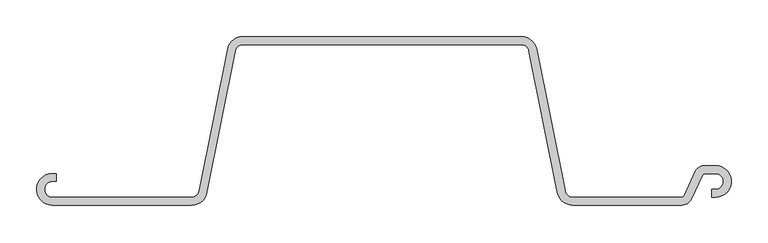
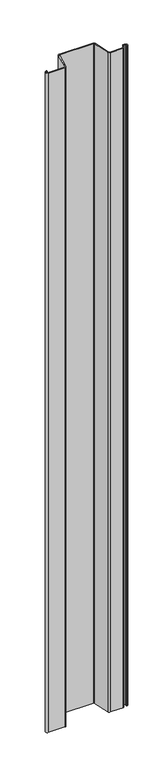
"""IFC4 building model written with IfcOpenShell, lengths in millimetres: proxy geometry, 鋼矢板10H型 : 鋼矢板10H型."""

from ifc_helpers import new_model, si_unit, point, frame, frame_2d, origin, place, context, project, spatial, polyline, circle_curve, trimmed, segment, composite_curve, outline, extrude, source, transform, mapped, element, save


def generic_models_5c6d3e61(model_context):
    return source(origin(), model_context, "Body", "SweptSolid", [
        extrude(outline(composite_curve([segment(trimmed(circle_curve(frame_2d((409.1972607, -101.1142857)), 13.8857143), [point((421.7819917, -106.9826421))], [point((409.1972607, -115.0))], False, "CARTESIAN"), True, "CONTINUOUS"), segment(polyline([(409.1972607, -115.0), (260.2008232, -115.0)]), True, "CONTINUOUS"), segment(trimmed(circle_curve(frame_2d((260.2008232, -93.4)), 21.6), [point((260.2008232, -115.0))], [point((239.0202806, -97.6361085))], False, "CARTESIAN"), True, "CONTINUOUS"), segment(polyline([(239.0202806, -97.6361085), (200.3894481, 95.5180543)]), True, "CONTINUOUS"), segment(trimmed(circle_curve(frame_2d((189.7991768, 93.4)), 10.8), [point((200.3894481, 95.5180543))], [point((189.7991768, 104.2))], True, "CARTESIAN"), True, "CONTINUOUS"), segment(polyline([(189.7991768, 104.2), (-189.7991768, 104.2)]), True, "CONTINUOUS"), segment(trimmed(circle_curve(frame_2d((-189.7991768, 93.4)), 10.8), [point((-189.7991768, 104.2))], [point((-200.3894481, 95.5180543))], True, "CARTESIAN"), True, "CONTINUOUS"), segment(polyline([(-200.3894481, 95.5180543), (-239.0202806, -97.6361085)]), True, "CONTINUOUS"), segment(trimmed(circle_curve(frame_2d((-260.2008232, -93.4)), 21.6), [point((-239.0202806, -97.6361085))], [point((-260.2008232, -115.0))], False, "CARTESIAN"), True, "CONTINUOUS"), segment(polyline([(-260.2008232, -115.0), (-450.0, -115.0)]), True, "CONTINUOUS"), segment(trimmed(circle_curve(frame_2d((-450.0, -93.4)), 21.6), [point((-450.0, -115.0))], [point((-450.0, -71.8))], False, "CARTESIAN"), True, "CONTINUOUS"), segment(polyline([(-450.0, -71.8), (-445.0, -71.8), (-445.0, -82.6), (-450.0, -82.6)]), True, "CONTINUOUS"), segment(trimmed(circle_curve(frame_2d((-450.0, -93.4)), 10.8), [point((-450.0, -82.6))], [point((-450.0, -104.2))], True, "CARTESIAN"), True, "CONTINUOUS"), segment(polyline([(-450.0, -104.2), (-260.2008232, -104.2)]), True, "CONTINUOUS"), segment(trimmed(circle_curve(frame_2d((-260.2008232, -93.4)), 10.8), [point((-260.2008232, -104.2))], [point((-249.6105519, -95.5180543))], True, "CARTESIAN"), True, "CONTINUOUS"), segment(polyline([(-249.6105519, -95.5180543), (-210.9797194, 97.6361085)]), True, "CONTINUOUS"), segment(trimmed(circle_curve(frame_2d((-189.7991768, 93.4)), 21.6), [point((-210.9797194, 97.6361085))], [point((-189.7991768, 115.0))], False, "CARTESIAN"), True, "CONTINUOUS"), segment(polyline([(-189.7991768, 115.0), (189.7991768, 115.0)]), True, "CONTINUOUS"), segment(trimmed(circle_curve(frame_2d((189.7991768, 93.4)), 21.6), [point((189.7991768, 115.0))], [point((210.9797194, 97.6361085))], False, "CARTESIAN"), True, "CONTINUOUS"), segment(polyline([(210.9797194, 97.6361085), (249.6105519, -95.5180543)]), True, "CONTINUOUS"), segment(trimmed(circle_curve(frame_2d((260.2008232, -93.4)), 10.8), [point((249.6105519, -95.5180543))], [point((260.2008232, -104.2))], True, "CARTESIAN"), True, "CONTINUOUS"), segment(polyline([(260.2008232, -104.2), (409.1972607, -104.2)]), True, "CONTINUOUS"), segment(trimmed(circle_curve(frame_2d((409.1972607, -101.1142857)), 3.0857143), [point((409.1972607, -104.2))], [point((411.9938676, -102.4183649))], True, "CARTESIAN"), True, "CONTINUOUS"), segment(polyline([(411.9938676, -102.4183649), (427.569013, -69.0173579)]), True, "CONTINUOUS"), segment(trimmed(circle_curve(frame_2d((440.153744, -74.8857143)), 13.8857143), [point((427.569013, -69.0173579))], [point((440.153744, -61.0))], False, "CARTESIAN"), True, "CONTINUOUS"), segment(polyline([(440.153744, -61.0), (455.0, -61.0)]), True, "CONTINUOUS"), segment(trimmed(circle_curve(frame_2d((455.0, -82.6)), 21.6), [point((455.0, -61.0))], [point((455.0, -104.2))], False, "CARTESIAN"), True, "CONTINUOUS"), segment(polyline([(455.0, -104.2), (450.0, -104.2), (450.0, -93.4), (455.0, -93.4)]), True, "CONTINUOUS"), segment(trimmed(circle_curve(frame_2d((455.0, -82.6)), 10.8), [point((455.0, -93.4))], [point((455.0, -71.8))], True, "CARTESIAN"), True, "CONTINUOUS"), segment(polyline([(455.0, -71.8), (440.153744, -71.8)]), True, "CONTINUOUS"), segment(trimmed(circle_curve(frame_2d((440.153744, -74.8857143)), 3.0857143), [point((440.153744, -71.8))], [point((437.3571371, -73.5816351))], True, "CARTESIAN"), True, "CONTINUOUS"), segment(polyline([(437.3571371, -73.5816351), (421.7819917, -106.9826421)]), True, "CONTINUOUS")], self_intersect=False)), frame((0.0, 0.0, -8000.0), z_axis=(0.0, 0.0, 1.0), x_axis=(1.0, 0.0, 0.0)), (0.0, 0.0, 1.0), 8000.0),
    ])


if __name__ == "__main__":
    model = new_model("IFC4")
    model_context = context("Model", 3, world=origin())
    ifc_project = project(units=[si_unit("LENGTHUNIT", "METRE", prefix="MILLI")], contexts=[model_context])
    site = spatial("IfcSite", under=ifc_project)
    building = spatial("IfcBuilding", under=site)
    placement = place(None, origin())
    generic_models_shape = generic_models_5c6d3e61(model_context)
    element("IfcBuildingElementProxy", 1, Name="鋼矢板10H型 : 鋼矢板10H型", ObjectType="鋼矢板10H型 : 鋼矢板10H型", at=placement, inside=building, context=model_context, shape_type="MappedRepresentation", body=[
        mapped(generic_models_shape, transform((0.0, 0.0, 0.0), x_axis=(1.0, 0.0, 0.0), y_axis=(0.0, 1.0, 0.0), z_axis=(0.0, 0.0, 1.0))),
    ])
    save(model, "model.ifc")
